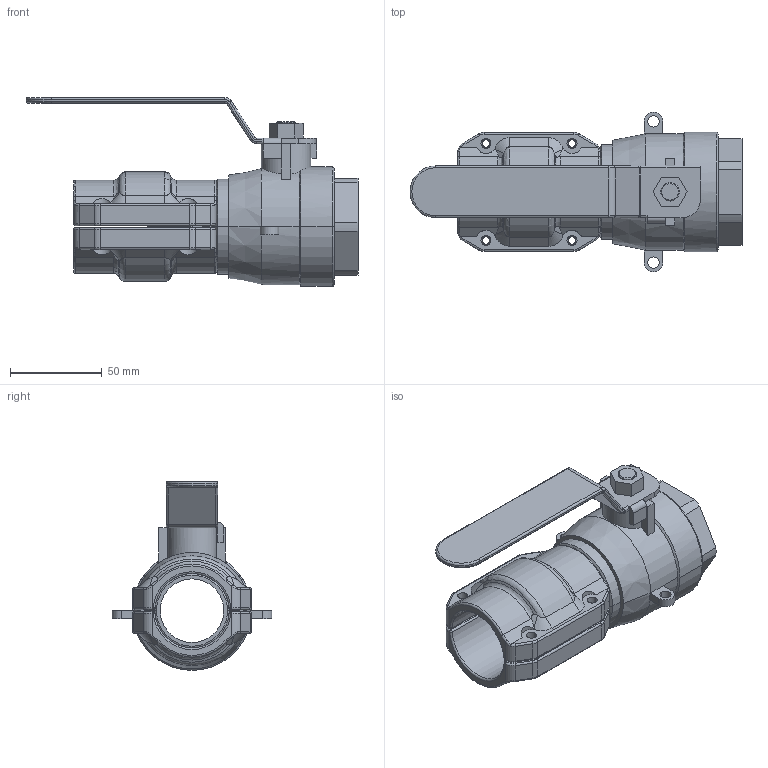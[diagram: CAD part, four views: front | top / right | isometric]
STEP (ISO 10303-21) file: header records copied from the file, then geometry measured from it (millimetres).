
FILE_DESCRIPTION((''),'2;1');
FILE_NAME('AU15445199_ASM','2017-05-14T',('li'),(''),'PRO/ENGINEER BY PARAMETRIC TECHNOLOGY CORPORATION, 2009360','PRO/ENGINEER BY PARAMETRIC TECHNOLOGY CORPORATION, 2009360','');
FILE_SCHEMA(('AUTOMOTIVE_DESIGN { 1 0 10303 214 1 1 1 1 }'));
Length unit declared in the file: millimetre
Products named in the file (5): AU15445100; 201540020001; 201540020000; 2015400200_ASM; AU15445199_ASM
Assembly tree (4 placements, depth 3):
  AU15445199_ASM
    AU15445100
    2015400200_ASM
      201540020001
      201540020000
Bounding box: 181.34 x 87.15 x 103.16 mm (x, y, z)
Volume: 193011.9 mm3; surface area: 84976.1 mm2
Topology: 3 solids, 3 shells, 353 faces, 893 edges, 552 vertices
Faces by surface type: cylinder 147, plane 91, torus 62, bspline 24, cone 21, sphere 8
Entity records: 14879 total; most frequent: CARTESIAN_POINT 3322, DIRECTION 1837, ORIENTED_EDGE 1786, PRESENTATION_STYLE_ASSIGNMENT 896, STYLED_ITEM 896, CURVE_STYLE 893, EDGE_CURVE 893, AXIS2_PLACEMENT_3D 733
